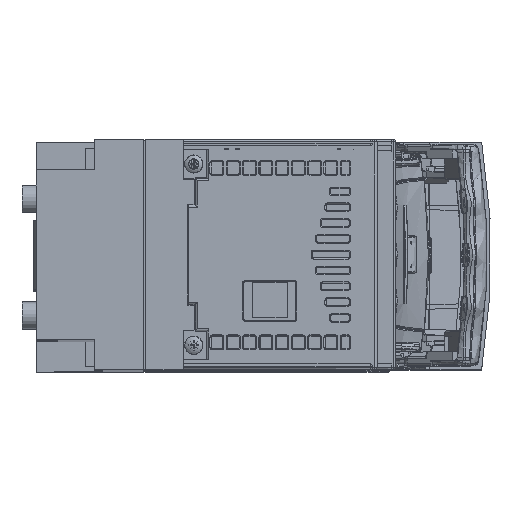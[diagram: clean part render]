
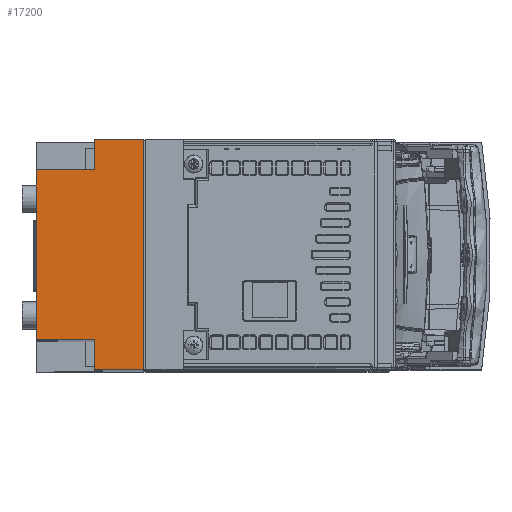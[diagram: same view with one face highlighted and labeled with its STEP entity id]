
A CAD part, top view. The second image highlights one B-rep face of the part: STEP entity #17200.
In plain terms, the highlighted planar face has unit normal (0, 0, 1).
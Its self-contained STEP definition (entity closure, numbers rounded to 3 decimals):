
#17200=ADVANCED_FACE('',(#28570),#25267,.F.);
#25267=PLANE('',#141915);
#28570=FACE_OUTER_BOUND('',#36503,.T.);
#36503=EDGE_LOOP('',(#45466,#45467,#45468,#45469,#45470,#45471,#45472,#45473));
#45466=ORIENTED_EDGE('',*,*,#100932,.T.);
#45467=ORIENTED_EDGE('',*,*,#100933,.F.);
#45468=ORIENTED_EDGE('',*,*,#100934,.F.);
#45469=ORIENTED_EDGE('',*,*,#100935,.F.);
#45470=ORIENTED_EDGE('',*,*,#100936,.F.);
#45471=ORIENTED_EDGE('',*,*,#100937,.F.);
#45472=ORIENTED_EDGE('',*,*,#100938,.F.);
#45473=ORIENTED_EDGE('',*,*,#100939,.F.);
#87544=VERTEX_POINT('',#182483);
#87545=VERTEX_POINT('',#182484);
#87546=VERTEX_POINT('',#182486);
#87547=VERTEX_POINT('',#182488);
#87548=VERTEX_POINT('',#182490);
#87549=VERTEX_POINT('',#182492);
#87550=VERTEX_POINT('',#182494);
#87551=VERTEX_POINT('',#182496);
#100932=EDGE_CURVE('',#87544,#87545,#121881,.T.);
#100933=EDGE_CURVE('',#87546,#87545,#121882,.T.);
#100934=EDGE_CURVE('',#87547,#87546,#121883,.T.);
#100935=EDGE_CURVE('',#87548,#87547,#121884,.T.);
#100936=EDGE_CURVE('',#87549,#87548,#121885,.T.);
#100937=EDGE_CURVE('',#87550,#87549,#121886,.T.);
#100938=EDGE_CURVE('',#87551,#87550,#121887,.T.);
#100939=EDGE_CURVE('',#87544,#87551,#121888,.T.);
#121881=LINE('',#182482,#131769);
#121882=LINE('',#182485,#131770);
#121883=LINE('',#182487,#131771);
#121884=LINE('',#182489,#131772);
#121885=LINE('',#182491,#131773);
#121886=LINE('',#182493,#131774);
#121887=LINE('',#182495,#131775);
#121888=LINE('',#182497,#131776);
#131769=VECTOR('',#152092,1.);
#131770=VECTOR('',#152093,1.);
#131771=VECTOR('',#152094,1.);
#131772=VECTOR('',#152095,1.);
#131773=VECTOR('',#152096,1.);
#131774=VECTOR('',#152097,1.);
#131775=VECTOR('',#152098,1.);
#131776=VECTOR('',#152099,1.);
#141915=AXIS2_PLACEMENT_3D('',#182498,#152100,#152101);
#152092=DIRECTION('',(0.,-1.,0.));
#152093=DIRECTION('',(-1.,0.,0.));
#152094=DIRECTION('',(0.,1.,0.));
#152095=DIRECTION('',(-1.,0.,0.));
#152096=DIRECTION('',(0.,-1.,0.));
#152097=DIRECTION('',(1.,0.,0.));
#152098=DIRECTION('',(0.,1.,0.));
#152099=DIRECTION('',(1.,0.,0.));
#152100=DIRECTION('',(0.,0.,-1.));
#152101=DIRECTION('',(0.,-1.,0.));
#182482=CARTESIAN_POINT('',(0.,49.5,289.7));
#182483=CARTESIAN_POINT('',(0.,36.5,289.7));
#182484=CARTESIAN_POINT('',(0.,-36.5,289.7));
#182485=CARTESIAN_POINT('',(152.,-36.5,289.7));
#182486=CARTESIAN_POINT('',(25.,-36.5,289.7));
#182487=CARTESIAN_POINT('',(25.,49.5,289.7));
#182488=CARTESIAN_POINT('',(25.,-49.5,289.7));
#182489=CARTESIAN_POINT('',(152.,-49.5,289.7));
#182490=CARTESIAN_POINT('',(46.2,-49.5,289.7));
#182491=CARTESIAN_POINT('',(46.2,49.3,289.7));
#182492=CARTESIAN_POINT('',(46.2,49.5,289.7));
#182493=CARTESIAN_POINT('',(152.,49.5,289.7));
#182494=CARTESIAN_POINT('',(25.,49.5,289.7));
#182495=CARTESIAN_POINT('',(25.,-49.5,289.7));
#182496=CARTESIAN_POINT('',(25.,36.5,289.7));
#182497=CARTESIAN_POINT('',(152.,36.5,289.7));
#182498=CARTESIAN_POINT('',(152.,49.5,289.7));
